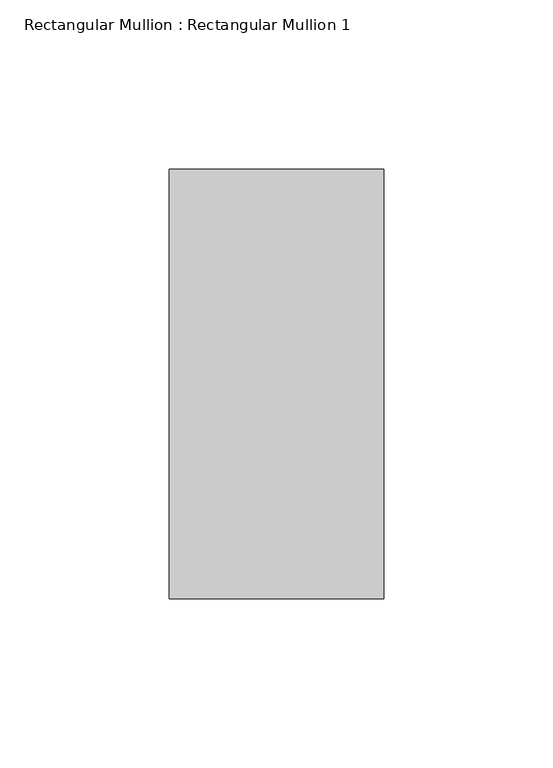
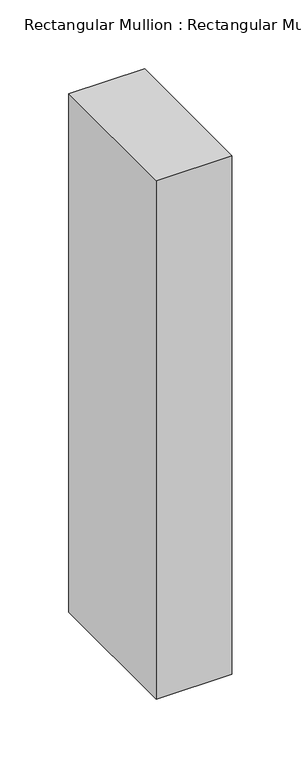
"""IFC4 building model written with IfcOpenShell, lengths in millimetres: member geometry, Rectangular Mullion : Rectangular Mullion 1."""

import ifcopenshell
import ifcopenshell.guid

model = None  # the IFC model being written
_history = None  # IfcOwnerHistory: only IFC2X3 demands one
_inside = {}  # id of a spatial element -> (the spatial element, [elements in it])
_under = {}  # id of a project, library or spatial element -> (it, [spatial elements below it])
_declared = {}  # id of a project -> (the project, [libraries it declares])
_typed = {}  # id of a type object -> (the type object, [elements of that type])
_made_of = {}  # id of a material, layer set ... -> (it, [elements and type objects made of it])


def new_model(schema):
    """Start an empty IFC model of exactly this schema.

    Asked for "IFC4X3", IfcOpenShell would pick the latest addendum, in which some entities
    have other attributes; the version numbers below select the first issue.
    IFC2X3 requires an IfcOwnerHistory on every rooted entity: one is made here for all.
    """
    global model, _history
    if schema == "IFC4X3":
        model = ifcopenshell.file(schema_version=(4, 3, 0, 0))
    else:
        model = ifcopenshell.file(schema=schema)
    _inside.clear()
    _under.clear()
    _declared.clear()
    _typed.clear()
    _made_of.clear()
    _history = None
    if model.schema == "IFC2X3":
        org = make("IfcOrganization", Name="unknown")
        user = make(
            "IfcPersonAndOrganization",
            ThePerson=make("IfcPerson", FamilyName="unknown"),
            TheOrganization=org,
        )
        app = make(
            "IfcApplication",
            ApplicationDeveloper=org,
            Version="unknown",
            ApplicationFullName="unknown",
            ApplicationIdentifier="unknown",
        )
        _history = make(
            "IfcOwnerHistory",
            OwningUser=user,
            OwningApplication=app,
            ChangeAction="ADDED",
            CreationDate=0,
        )
    return model


def make(cls, **values):
    """One entity of the class cls with the attributes given. An attribute that is None is left unset."""
    return model.create_entity(
        cls, **{name: value for name, value in values.items() if value is not None}
    )


def rooted(cls, **values):
    """An entity with a GlobalId (a new one), such as an element, a storey or a relation."""
    return make(cls, GlobalId=ifcopenshell.guid.new(), OwnerHistory=_history, **values)


def si_unit(unit_type, name, prefix=None):
    """IfcSIUnit, for example si_unit("LENGTHUNIT", "METRE", prefix="MILLI")."""
    return make("IfcSIUnit", UnitType=unit_type, Prefix=prefix, Name=name)


def assignment(units):
    """IfcUnitAssignment: the units of a project."""
    return None if units is None else make("IfcUnitAssignment", Units=units)


def point(xyz):
    """IfcCartesianPoint."""
    return None if xyz is None else make("IfcCartesianPoint", Coordinates=xyz)


def direction(xyz):
    """IfcDirection."""
    return None if xyz is None else make("IfcDirection", DirectionRatios=xyz)


def frame(location, z_axis=None, x_axis=None):
    """IfcAxis2Placement3D, a coordinate frame: its origin and axes. An axis left out is left unset."""
    return make(
        "IfcAxis2Placement3D",
        Location=point(location),
        Axis=direction(z_axis),
        RefDirection=direction(x_axis),
    )


def origin():
    """The frame at (0, 0, 0) with its axes left unset."""
    return frame((0.0, 0.0, 0.0))


def place(relative_to, where):
    """IfcLocalPlacement: puts the frame where relative to a parent placement (None: the world)."""
    return make(
        "IfcLocalPlacement", PlacementRelTo=relative_to, RelativePlacement=where
    )


def context(
    kind, dimensions, precision=None, world=None, true_north=None, identifier=None
):
    """IfcGeometricRepresentationContext, for example the 3D "Model" context."""
    return make(
        "IfcGeometricRepresentationContext",
        ContextIdentifier=identifier,
        ContextType=kind,
        CoordinateSpaceDimension=dimensions,
        Precision=precision,
        WorldCoordinateSystem=world,
        TrueNorth=true_north,
    )


def project(units=None, contexts=None):
    """IfcProject with its units and contexts."""
    return rooted(
        "IfcProject",
        Name="project",
        RepresentationContexts=contexts,
        UnitsInContext=assignment(units),
    )


def spatial(cls, under=None, at=None, **own):
    """A site, building, storey or space (cls), placed at a placement, below another one or the project."""
    s = rooted(cls, ObjectPlacement=at, **own)
    if under is not None:
        _under.setdefault(under.id(), (under, []))[1].append(s)
    return s


def polyline(points):
    """IfcPolyline through the points."""
    return make("IfcPolyline", Points=[point(p) for p in points])


def outline(outer, holes=None, kind="AREA"):
    """IfcArbitraryClosedProfileDef: a profile drawn as a closed curve; with holes, ...WithVoids."""
    if holes is None:
        return make("IfcArbitraryClosedProfileDef", ProfileType=kind, OuterCurve=outer)
    return make(
        "IfcArbitraryProfileDefWithVoids",
        ProfileType=kind,
        OuterCurve=outer,
        InnerCurves=holes,
    )


def extrude(swept, where, along, depth):
    """IfcExtrudedAreaSolid: the profile swept, set in the frame where, extruded along a direction by depth."""
    return make(
        "IfcExtrudedAreaSolid",
        SweptArea=swept,
        Position=where,
        ExtrudedDirection=direction(along),
        Depth=depth,
    )


def shape(context_of_items, identifier, shape_type, items):
    """IfcShapeRepresentation: the items that make up one representation, for example the "Body"."""
    return make(
        "IfcShapeRepresentation",
        ContextOfItems=context_of_items,
        RepresentationIdentifier=identifier,
        RepresentationType=shape_type,
        Items=items,
    )


def source(mapping_origin, context_of_items, identifier, shape_type, items):
    """IfcRepresentationMap: a shape defined once, which mapped items show again and again."""
    return make(
        "IfcRepresentationMap",
        MappingOrigin=mapping_origin,
        MappedRepresentation=shape(context_of_items, identifier, shape_type, items),
    )


def transform(
    local_origin,
    x_axis=None,
    y_axis=None,
    z_axis=None,
    scale=None,
    scale2=None,
    scale3=None,
    uniform=True,
):
    """IfcCartesianTransformationOperator3D, or its non-uniform kind. x_axis, y_axis, z_axis: its Axis1, 2, 3."""
    if uniform:
        return make(
            "IfcCartesianTransformationOperator3D",
            Axis1=direction(x_axis),
            Axis2=direction(y_axis),
            LocalOrigin=point(local_origin),
            Scale=scale,
            Axis3=direction(z_axis),
        )
    return make(
        "IfcCartesianTransformationOperator3DnonUniform",
        Axis1=direction(x_axis),
        Axis2=direction(y_axis),
        LocalOrigin=point(local_origin),
        Scale=scale,
        Axis3=direction(z_axis),
        Scale2=scale2,
        Scale3=scale3,
    )


def mapped(mapping_source, mapping_target):
    """IfcMappedItem: shows the shape of a source again, moved by a transform."""
    return make(
        "IfcMappedItem", MappingSource=mapping_source, MappingTarget=mapping_target
    )


def made_of(thing, what):
    """Note that an element or type object is made of a material, layer set ...; save() writes the relation."""
    if what is not None:
        _made_of.setdefault(what.id(), (what, []))[1].append(thing)
    return thing


def element(
    cls,
    number,
    at=None,
    inside=None,
    cuts=None,
    type_object=None,
    material=None,
    context=None,
    identifier="Body",
    shape_type=None,
    held_by="IfcProductDefinitionShape",
    body=None,
    shapes=None,
    **own,
):
    """One element of the class cls, such as IfcWall. Its Tag is "e" and its number.

    at: its placement. inside: the storey or other place that contains it. cuts: it is an
    opening in that element (IfcRelVoidsElement). A single representation is given by context,
    identifier, shape_type and body (its items); several are given by shapes. held_by: the class
    of the entity that holds the representations. save() writes the other relations.
    """
    e = rooted(cls, Tag="e%d" % number, ObjectPlacement=at, **own)
    if body is not None:
        shapes = [shape(context, identifier, shape_type, body)]
    if shapes is not None:
        e.Representation = make(held_by, Representations=shapes)
    if inside is not None:
        _inside.setdefault(inside.id(), (inside, []))[1].append(e)
    if cuts is not None:
        rooted(
            "IfcRelVoidsElement", RelatingBuildingElement=cuts, RelatedOpeningElement=e
        )
    if type_object is not None:
        _typed.setdefault(type_object.id(), (type_object, []))[1].append(e)
    return made_of(e, material)


def aggregate(whole, parts):
    """IfcRelAggregates: a whole, such as a stair, and the parts it consists of."""
    return rooted("IfcRelAggregates", RelatingObject=whole, RelatedObjects=parts)


def save(model, path):
    """Write the relations noted so far, then the file.

    IfcRelAggregates (storeys below a building ...), IfcRelContainedInSpatialStructure (elements
    in a storey), IfcRelDefinesByType, IfcRelAssociatesMaterial and IfcRelDeclares: one each for
    every whole, place, type object, material and project.
    """
    for whole, parts in _under.values():
        aggregate(whole, parts)
    for where, things in _inside.values():
        rooted(
            "IfcRelContainedInSpatialStructure",
            RelatedElements=things,
            RelatingStructure=where,
        )
    for kind, things in _typed.values():
        rooted("IfcRelDefinesByType", RelatedObjects=things, RelatingType=kind)
    for what, things in _made_of.values():
        rooted("IfcRelAssociatesMaterial", RelatedObjects=things, RelatingMaterial=what)
    for by, libraries in _declared.values():
        rooted("IfcRelDeclares", RelatingContext=by, RelatedDefinitions=libraries)
    model.write(path)


def rectangular_mullion_rectangular_mullion_1_ae5c687b(model_context):
    return source(origin(), model_context, "Body", "SweptSolid", [
        extrude(outline(polyline([(31.75, 63.5), (31.75, -63.5), (-31.75, -63.5), (-31.75, 63.5), (31.75, 63.5)])), frame((0.0, 0.0, -459.6908928), z_axis=(0.0, 0.0, 1.0), x_axis=(1.0, 0.0, 0.0)), (0.0, 0.0, 1.0), 459.6908928),
    ])


if __name__ == "__main__":
    model = new_model("IFC4")
    model_context = context("Model", 3, world=origin())
    ifc_project = project(units=[si_unit("LENGTHUNIT", "METRE", prefix="MILLI")], contexts=[model_context])
    site = spatial("IfcSite", under=ifc_project)
    building = spatial("IfcBuilding", under=site)
    placement = place(None, origin())
    rectangular_mullion_rectangular_mullion_1_shape = rectangular_mullion_rectangular_mullion_1_ae5c687b(model_context)
    element("IfcMember", 1, ObjectType="Rectangular Mullion : Rectangular Mullion 1", at=placement, inside=building, context=model_context, shape_type="MappedRepresentation", body=[
        mapped(rectangular_mullion_rectangular_mullion_1_shape, transform((0.0, 0.0, 0.0), x_axis=(1.0, 0.0, 0.0), y_axis=(0.0, 1.0, 0.0), z_axis=(0.0, 0.0, 1.0))),
    ])
    save(model, "model.ifc")
